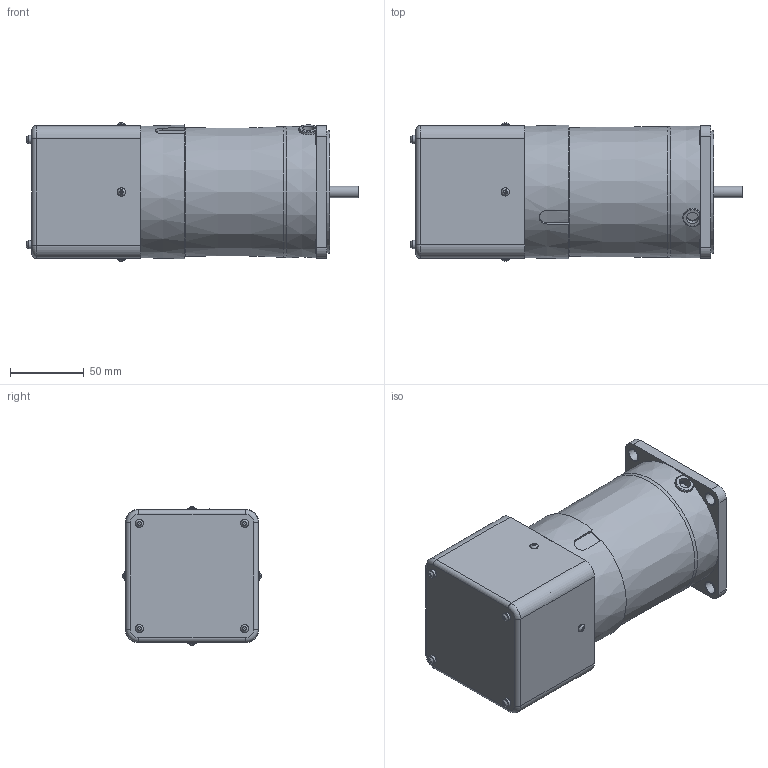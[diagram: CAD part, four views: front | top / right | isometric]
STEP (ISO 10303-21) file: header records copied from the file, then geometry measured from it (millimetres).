
FILE_DESCRIPTION(/* description */ (''),/* implementation_level */ '2;1');
FILE_NAME(/* name */ 'Y:\제품연구개발\3. 도면\3. 고객배포용\3D_홈페이지용\01-1 Standard AC SG Series\05-3 SPEED CONTROL ELECTROMAGNETIC BRAKE MOTOR(ES)\SG9R60_-ES12\SG9R60G-ES.stp',/* time_stamp */ '2023-12-01T09:35:04+09:00',/* author */ ('shyi1037'),/* organization */ (''),/* preprocessor_version */ 'ST-DEVELOPER v18.1',/* originating_system */ 'Autodesk Inventor 2022',/* authorisation */ '');
FILE_SCHEMA (('AUTOMOTIVE_DESIGN { 1 0 10303 214 3 1 1 }'));
Length unit declared in the file: millimetre
Products named in the file (1): S9R60G-ES
Bounding box: 225.35 x 93.89 x 93.89 mm (x, y, z)
Volume: 1126157.8 mm3; surface area: 112404.7 mm2
Topology: 1 solids, 7 shells, 290 faces, 713 edges, 468 vertices
Faces by surface type: plane 177, cylinder 72, torus 26, bspline 8, cone 7
Full cylindrical faces by diameter (mm): 3 x8, 4.5 x4, 5.6 x12, 7.62 x1, 8 x1, 8.5 x4, 9.5 x4, 10 x1, 40 x1, 83 x1, 86 x1
Entity records: 9324 total; most frequent: CARTESIAN_POINT 2373, ORIENTED_EDGE 1426, DIRECTION 1381, EDGE_CURVE 713, AXIS2_PLACEMENT_3D 506, VERTEX_POINT 468, LINE 369, VECTOR 369
